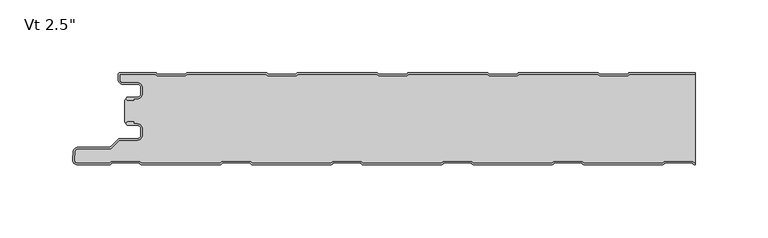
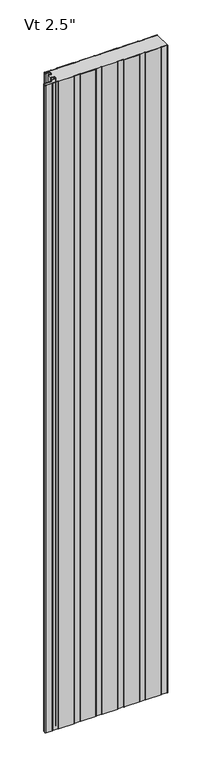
"""IFC4 building model written with IfcOpenShell, lengths in millimetres: plate geometry."""

from ifc_helpers import new_model, si_unit, point, frame, frame_2d, origin, origin_with_axes, place, context, project, spatial, polyline, circle_curve, trimmed, segment, composite_curve, outline, extrude, source, transform, mapped, element, save
from ifc_brep_helpers import plane_surface, cylinder_surface, revolved_surface, advanced_brep


def plate_cb23bb6f(model_context):
    return source(origin(), model_context, "Body", "SolidModel", [
        advanced_brep(
        [(-194.568691, -17.0015405, 2400.0), (-195.5686883, -18.0015437, 2400.0), (-194.568691, -19.0015351, 2400.0), (-190.5684874, -19.0015351, 2400.0), (-190.5684874, -18.0015405, 2400.0), (-187.8762776, -18.0015405, 2400.0), (-184.5762819, -14.7015448, 2400.0), (-184.5762819, -10.3015536, 2400.0), (-187.8762774, -7.0015581, 2400.0), (-198.2962563, -7.0015581, 2400.0), (-200.0662505, -5.2315639, 2400.0), (-200.0662505, -1.0000163, 2400.0), (-175.5659739, -1.0000162, 2400.0), (-174.1803313, -2.2002553, 2400.0), (-154.805165, -2.2002553, 2400.0), (-153.419532, -1.0000245, 2400.0), (-99.3661166, -1.0000245, 2400.0), (-97.9804837, -2.2002552, 2400.0), (-78.6053174, -2.2002551, 2400.0), (-77.2196844, -1.0000244, 2400.0), (-23.166269, -1.0000243, 2400.0), (-21.7806361, -2.200255, 2400.0), (-2.4054698, -2.200255, 2400.0), (-1.0198368, -1.0000243, 2400.0), (53.0335786, -1.0000242, 2400.0), (54.4192115, -2.2002549, 2400.0), (73.7943778, -2.2002548, 2400.0), (75.1800108, -1.0000241, 2400.0), (129.2334262, -1.000024, 2400.0), (130.6190591, -2.2002547, 2400.0), (149.9942254, -2.2002547, 2400.0), (151.3798584, -1.000024, 2400.0), (196.5999998, -1.0000239, 2400.0), (196.5999998, -2.39e-05, 2400.0), (151.5290095, -2.4e-05, 2400.0), (150.6123926, -0.3418125, 2400.0), (149.621345, -1.2002547, 2400.0), (130.9919395, -1.2002547, 2400.0), (130.0008919, -0.3418125, 2400.0), (129.084275, -2.4e-05, 2400.0), (75.3291619, -2.41e-05, 2400.0), (74.412545, -0.3418126, 2400.0), (73.4214974, -1.2002548, 2400.0), (54.7920919, -1.2002549, 2400.0), (53.8010443, -0.3418127, 2400.0), (52.8844274, -2.42e-05, 2400.0), (-0.8706857, -2.43e-05, 2400.0), (-1.7873026, -0.3418128, 2400.0), (-2.7783502, -1.200255, 2400.0), (-21.4077557, -1.200255, 2400.0), (-22.3988033, -0.3418128, 2400.0), (-23.3154202, -2.43e-05, 2400.0), (-77.0705333, -2.44e-05, 2400.0), (-77.9871502, -0.3418129, 2400.0), (-78.9781978, -1.2002551, 2400.0), (-97.6076033, -1.2002552, 2400.0), (-98.5986509, -0.341813, 2400.0), (-99.5152678, -2.44e-05, 2400.0), (-153.2703809, -2.45e-05, 2400.0), (-154.1869978, -0.3418131, 2400.0), (-155.1780454, -1.2002553, 2400.0), (-173.8074509, -1.2002553, 2400.0), (-174.7984985, -0.3418131, 2400.0), (-175.7152068, -2.46e-05, 2400.0), (-199.6662544, -1.63e-05, 2400.0), (-201.0662505, -1.4000124, 2400.0), (-201.0662505, -5.2315639, 2400.0), (-198.2962563, -8.0015581, 2400.0), (-187.8762774, -8.0015581, 2400.0), (-185.5762819, -10.3015536, 2400.0), (-185.5762819, -14.7015448, 2400.0), (-187.8762776, -17.0015405, 2400.0), (-194.568691, -17.0015405, 0.0), (-187.8762776, -17.0015405, 0.0), (-185.5762819, -14.7015448, 0.0), (-185.5762819, -10.3015536, 0.0), (-187.8762774, -8.0015581, 0.0), (-198.2962563, -8.0015581, 0.0), (-201.0662505, -5.2315639, 0.0), (-201.0662505, -1.4000124, 0.0), (-199.6662544, -1.63e-05, 0.0), (-175.7151154, -1.62e-05, 0.0), (-174.7984985, -0.3418131, 0.0), (-173.8074509, -1.2002553, 0.0), (-155.1780454, -1.2002553, 0.0), (-154.1869978, -0.3418131, 0.0), (-153.2703809, -2.45e-05, 0.0), (-99.5152678, -2.45e-05, 0.0), (-98.5986509, -0.341813, 0.0), (-97.6076033, -1.2002552, 0.0), (-78.9781978, -1.2002551, 0.0), (-77.9871502, -0.3418129, 0.0), (-77.0705333, -2.44e-05, 0.0), (-23.3154202, -2.43e-05, 0.0), (-22.3988033, -0.3418128, 0.0), (-21.4077557, -1.200255, 0.0), (-2.7783502, -1.200255, 0.0), (-1.7873026, -0.3418128, 0.0), (-0.8706857, -2.43e-05, 0.0), (52.8844274, -2.42e-05, 0.0), (53.8010443, -0.3418127, 0.0), (54.7920919, -1.2002549, 0.0), (73.4214974, -1.2002548, 0.0), (74.412545, -0.3418126, 0.0), (75.3291619, -2.41e-05, 0.0), (129.084275, -2.4e-05, 0.0), (130.0008919, -0.3418125, 0.0), (130.9919395, -1.2002547, 0.0), (149.621345, -1.2002547, 0.0), (150.6123926, -0.3418125, 0.0), (151.5290095, -2.4e-05, 0.0), (196.5999998, -2.39e-05, 0.0), (196.5999998, -1.0000239, 0.0), (151.3798584, -1.000024, 0.0), (149.9942254, -2.2002547, 0.0), (130.6190591, -2.2002547, 0.0), (129.2334262, -1.000024, 0.0), (75.1800108, -1.0000241, 0.0), (73.7943778, -2.2002548, 0.0), (54.4192115, -2.2002549, 0.0), (53.0335786, -1.0000242, 0.0), (-1.0198368, -1.0000243, 0.0), (-2.4054698, -2.200255, 0.0), (-21.7806361, -2.200255, 0.0), (-23.166269, -1.0000243, 0.0), (-77.2196844, -1.0000244, 0.0), (-78.6053174, -2.2002551, 0.0), (-97.9804837, -2.2002552, 0.0), (-99.3661166, -1.0000245, 0.0), (-153.419532, -1.0000245, 0.0), (-154.805165, -2.2002553, 0.0), (-174.1803313, -2.2002553, 0.0), (-175.5659739, -1.0000162, 0.0), (-200.0662505, -1.0000163, 0.0), (-200.0662505, -5.2315639, 0.0), (-198.2962563, -7.0015581, 0.0), (-187.8762774, -7.0015581, 0.0), (-184.5762819, -10.3015536, 0.0), (-184.5762819, -14.7015448, 0.0), (-187.8762776, -18.0015405, 0.0), (-190.5684874, -18.0015405, 0.0), (-190.5684874, -19.0015351, 0.0), (-194.568691, -19.0015351, 0.0), (-195.5686882, -18.0015438, 0.0)],
        [
            (0, 1, circle_curve(frame((-194.568691, -18.0015378, 2400.0), z_axis=(0.0, 0.0, 1.0), x_axis=(1.0, 1.7886562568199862e-09, 0.0)), 0.9999973)),
            (1, 2, circle_curve(frame((-194.568691, -18.0015379, 2400.0), z_axis=(0.0, 0.0, 1.0), x_axis=(1.0, 1.7886562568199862e-09, 0.0)), 0.9999972)),
            (2, 3),
            (3, 4),
            (4, 5),
            (5, 6, circle_curve(frame((-187.8762776, -14.7015448, 2400.0), z_axis=(0.0, 0.0, 1.0), x_axis=(1.0, 1.7886562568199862e-09, 0.0)), 3.2999957)),
            (6, 7),
            (7, 8, circle_curve(frame((-187.8762774, -10.3015536, 2400.0), z_axis=(0.0, 0.0, 1.0), x_axis=(1.0, 1.7886562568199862e-09, 0.0)), 3.2999955)),
            (8, 9),
            (9, 10, circle_curve(frame((-198.2962563, -5.2315639, 2400.0), z_axis=(0.0, 0.0, -1.0), x_axis=(1.0, 1.7886562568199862e-09, 0.0)), 1.7699942)),
            (10, 11),
            (11, 12),
            (12, 13),
            (13, 14),
            (14, 15),
            (15, 16),
            (16, 17),
            (17, 18),
            (18, 19),
            (19, 20),
            (20, 21),
            (21, 22),
            (22, 23),
            (23, 24),
            (24, 25),
            (25, 26),
            (26, 27),
            (27, 28),
            (28, 29),
            (29, 30),
            (30, 31),
            (31, 32),
            (32, 33),
            (33, 34),
            (34, 35, circle_curve(frame((151.5290095, -1.4000212, 2400.0), z_axis=(0.0, 0.0, 1.0), x_axis=(1.0, 1.7886562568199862e-09, 0.0)), 1.3999972)),
            (35, 36),
            (36, 37),
            (37, 38),
            (38, 39, circle_curve(frame((129.084275, -1.4000212, 2400.0), z_axis=(0.0, 0.0, 1.0), x_axis=(1.0, 1.7886562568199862e-09, 0.0)), 1.3999972)),
            (39, 40),
            (40, 41, circle_curve(frame((75.3291619, -1.4000213, 2400.0), z_axis=(0.0, 0.0, 1.0), x_axis=(1.0, 1.7886562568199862e-09, 0.0)), 1.3999972)),
            (41, 42),
            (42, 43),
            (43, 44),
            (44, 45, circle_curve(frame((52.8844274, -1.4000214, 2400.0), z_axis=(0.0, 0.0, 1.0), x_axis=(1.0, 1.7886562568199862e-09, 0.0)), 1.3999972)),
            (45, 46),
            (46, 47, circle_curve(frame((-0.8706857, -1.4000215, 2400.0), z_axis=(0.0, 0.0, 1.0), x_axis=(1.0, 1.7886562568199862e-09, 0.0)), 1.3999972)),
            (47, 48),
            (48, 49),
            (49, 50),
            (50, 51, circle_curve(frame((-23.3154202, -1.4000215, 2400.0), z_axis=(0.0, 0.0, 1.0), x_axis=(1.0, 1.7886562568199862e-09, 0.0)), 1.3999972)),
            (51, 52),
            (52, 53, circle_curve(frame((-77.0705333, -1.4000216, 2400.0), z_axis=(0.0, 0.0, 1.0), x_axis=(1.0, 1.7886562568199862e-09, 0.0)), 1.3999972)),
            (53, 54),
            (54, 55),
            (55, 56),
            (56, 57, circle_curve(frame((-99.5152678, -1.4000216, 2400.0), z_axis=(0.0, 0.0, 1.0), x_axis=(1.0, 1.7886562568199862e-09, 0.0)), 1.3999972)),
            (57, 58),
            (58, 59, circle_curve(frame((-153.2703809, -1.4000217, 2400.0), z_axis=(0.0, 0.0, 1.0), x_axis=(1.0, 1.7886562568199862e-09, 0.0)), 1.3999972)),
            (59, 60),
            (60, 61),
            (61, 62),
            (62, 63, circle_curve(frame((-175.7151154, -1.4000218, 2400.0), z_axis=(0.0, 0.0, 1.0), x_axis=(1.0, 1.7886562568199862e-09, 0.0)), 1.3999972)),
            (63, 64),
            (64, 65, circle_curve(frame((-199.6662544, -1.4000124, 2400.0), z_axis=(0.0, 0.0, 1.0), x_axis=(1.0, 1.7886562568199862e-09, 0.0)), 1.3999962)),
            (65, 66),
            (66, 67, circle_curve(frame((-198.2962563, -5.2315639, 2400.0), z_axis=(0.0, 0.0, 1.0), x_axis=(1.0, 1.7886562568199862e-09, 0.0)), 2.7699942)),
            (67, 68),
            (68, 69, circle_curve(frame((-187.8762774, -10.3015536, 2400.0), z_axis=(0.0, 0.0, -1.0), x_axis=(1.0, 1.7886562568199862e-09, 0.0)), 2.2999955)),
            (69, 70),
            (70, 71, circle_curve(frame((-187.8762776, -14.7015448, 2400.0), z_axis=(0.0, 0.0, -1.0), x_axis=(1.0, 1.7886562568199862e-09, 0.0)), 2.2999957)),
            (71, 0),
            (72, 73),
            (73, 74, circle_curve(frame((-187.8762776, -14.7015448, 0.0), z_axis=(0.0, 0.0, 1.0), x_axis=(1.0, 1.7886562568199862e-09, 0.0)), 2.2999957)),
            (74, 75),
            (75, 76, circle_curve(frame((-187.8762774, -10.3015536, 0.0), z_axis=(0.0, 0.0, 1.0), x_axis=(1.0, 1.7886562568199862e-09, 0.0)), 2.2999955)),
            (76, 77),
            (77, 78, circle_curve(frame((-198.2962563, -5.2315639, 0.0), z_axis=(0.0, 0.0, -1.0), x_axis=(1.0, 1.7886562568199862e-09, 0.0)), 2.7699942)),
            (78, 79),
            (79, 80, circle_curve(frame((-199.6662544, -1.4000124, 0.0), z_axis=(0.0, 0.0, -1.0), x_axis=(1.0, 1.7886562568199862e-09, 0.0)), 1.3999962)),
            (80, 81),
            (81, 82, circle_curve(frame((-175.7151154, -1.4000218, 0.0), z_axis=(0.0, 0.0, -1.0), x_axis=(1.0, 1.7886562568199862e-09, 0.0)), 1.3999972)),
            (82, 83),
            (83, 84),
            (84, 85),
            (85, 86, circle_curve(frame((-153.2703809, -1.4000217, 0.0), z_axis=(0.0, 0.0, -1.0), x_axis=(1.0, 1.7886562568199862e-09, 0.0)), 1.3999972)),
            (86, 87),
            (87, 88, circle_curve(frame((-99.5152678, -1.4000216, 0.0), z_axis=(0.0, 0.0, -1.0), x_axis=(1.0, 1.7886562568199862e-09, 0.0)), 1.3999972)),
            (88, 89),
            (89, 90),
            (90, 91),
            (91, 92, circle_curve(frame((-77.0705333, -1.4000216, 0.0), z_axis=(0.0, 0.0, -1.0), x_axis=(1.0, 1.7886562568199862e-09, 0.0)), 1.3999972)),
            (92, 93),
            (93, 94, circle_curve(frame((-23.3154202, -1.4000215, 0.0), z_axis=(0.0, 0.0, -1.0), x_axis=(1.0, 1.7886562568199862e-09, 0.0)), 1.3999972)),
            (94, 95),
            (95, 96),
            (96, 97),
            (97, 98, circle_curve(frame((-0.8706857, -1.4000215, 0.0), z_axis=(0.0, 0.0, -1.0), x_axis=(1.0, 1.7886562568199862e-09, 0.0)), 1.3999972)),
            (98, 99),
            (99, 100, circle_curve(frame((52.8844274, -1.4000214, 0.0), z_axis=(0.0, 0.0, -1.0), x_axis=(1.0, 1.7886562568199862e-09, 0.0)), 1.3999972)),
            (100, 101),
            (101, 102),
            (102, 103),
            (103, 104, circle_curve(frame((75.3291619, -1.4000213, 0.0), z_axis=(0.0, 0.0, -1.0), x_axis=(1.0, 1.7886562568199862e-09, 0.0)), 1.3999972)),
            (104, 105),
            (105, 106, circle_curve(frame((129.084275, -1.4000212, 0.0), z_axis=(0.0, 0.0, -1.0), x_axis=(1.0, 1.7886562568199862e-09, 0.0)), 1.3999972)),
            (106, 107),
            (107, 108),
            (108, 109),
            (109, 110, circle_curve(frame((151.5290095, -1.4000212, 0.0), z_axis=(0.0, 0.0, -1.0), x_axis=(1.0, 1.7886562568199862e-09, 0.0)), 1.3999972)),
            (110, 111),
            (111, 112),
            (112, 113),
            (113, 114),
            (114, 115),
            (115, 116),
            (116, 117),
            (117, 118),
            (118, 119),
            (119, 120),
            (120, 121),
            (121, 122),
            (122, 123),
            (123, 124),
            (124, 125),
            (125, 126),
            (126, 127),
            (127, 128),
            (128, 129),
            (129, 130),
            (130, 131),
            (131, 132),
            (132, 133),
            (133, 134),
            (134, 135, circle_curve(frame((-198.2962563, -5.2315639, 0.0), z_axis=(0.0, 0.0, 1.0), x_axis=(1.0, 1.7886562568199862e-09, 0.0)), 1.7699942)),
            (135, 136),
            (136, 137, circle_curve(frame((-187.8762774, -10.3015536, 0.0), z_axis=(0.0, 0.0, -1.0), x_axis=(1.0, 1.7886562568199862e-09, 0.0)), 3.2999955)),
            (137, 138),
            (138, 139, circle_curve(frame((-187.8762776, -14.7015448, 0.0), z_axis=(0.0, 0.0, -1.0), x_axis=(1.0, 1.7886562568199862e-09, 0.0)), 3.2999957)),
            (139, 140),
            (140, 141),
            (141, 142),
            (142, 143, circle_curve(frame((-194.568691, -18.0015379, 0.0), z_axis=(0.0, 0.0, -1.0), x_axis=(1.0, 1.7886562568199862e-09, 0.0)), 0.9999972)),
            (143, 72, circle_curve(frame((-194.568691, -18.0015378, 0.0), z_axis=(0.0, 0.0, -1.0), x_axis=(1.0, 1.7886562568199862e-09, 0.0)), 0.9999973)),
            (32, 112),
            (111, 33),
            (71, 73),
            (72, 0),
            (70, 74),
            (69, 75),
            (68, 76),
            (67, 77),
            (66, 78),
            (65, 79),
            (64, 80),
            (63, 81),
            (62, 82),
            (61, 83),
            (60, 84),
            (59, 85),
            (58, 86),
            (57, 87),
            (56, 88),
            (55, 89),
            (54, 90),
            (53, 91),
            (52, 92),
            (51, 93),
            (50, 94),
            (49, 95),
            (48, 96),
            (47, 97),
            (46, 98),
            (45, 99),
            (44, 100),
            (43, 101),
            (42, 102),
            (41, 103),
            (40, 104),
            (39, 105),
            (38, 106),
            (37, 107),
            (36, 108),
            (35, 109),
            (34, 110),
            (31, 113),
            (30, 114),
            (29, 115),
            (28, 116),
            (27, 117),
            (26, 118),
            (25, 119),
            (24, 120),
            (23, 121),
            (22, 122),
            (21, 123),
            (20, 124),
            (19, 125),
            (18, 126),
            (17, 127),
            (16, 128),
            (15, 129),
            (14, 130),
            (13, 131),
            (12, 132),
            (11, 133),
            (10, 134),
            (9, 135),
            (8, 136),
            (7, 137),
            (6, 138),
            (5, 139),
            (4, 140),
            (3, 141),
            (2, 142),
            (1, 143),
        ],
        [
            plane_surface(frame((336.8000001, -2.37e-05, 2400.0), z_axis=(0.0, 0.0, 1.0), x_axis=(-1.7886562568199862e-09, 1.0, 0.0))),
            plane_surface(frame((336.8000001, -2.37e-05, 0.0), z_axis=(0.0, 0.0, -1.0), x_axis=(-1.7886562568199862e-09, 1.0, 0.0))),
            plane_surface(frame((196.5999999, -73.5000239, 2400.0), z_axis=(1.0, 1.7886562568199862e-09, 0.0), x_axis=(0.0, 0.0, -1.0))),
            plane_surface(frame((-194.568691, -17.0015405, 2400.0), z_axis=(-1.7886562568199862e-09, 1.0, 0.0), x_axis=(0.0, 0.0, -1.0))),
            revolved_surface(polyline([(-185.5762819, -14.701544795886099, 0.0), (-185.5762819, -14.701544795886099, 2400.0)]), (-187.8762776, -14.7015448, 2400.0), (0.0, 0.0, -1.0)),
            plane_surface(frame((-185.5762819, -14.7015448, 2400.0), z_axis=(-1.0, -1.7886562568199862e-09, 0.0), x_axis=(0.0, 0.0, -1.0))),
            revolved_surface(polyline([(-185.5762819, -10.301553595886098, 0.0), (-185.5762819, -10.301553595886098, 2400.0)]), (-187.8762774, -10.3015536, 2400.0), (0.0, 0.0, -1.0)),
            plane_surface(frame((-187.8762774, -8.0015581, 2400.0), z_axis=(1.7886562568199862e-09, -1.0, 0.0), x_axis=(0.0, 0.0, -1.0))),
            cylinder_surface(frame((-198.2962563, -5.2315639, 2400.0), z_axis=(0.0, 0.0, 1.0), x_axis=(1.0, 1.7886562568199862e-09, 0.0)), 2.7699942),
            plane_surface(frame((-201.0662505, -5.2315639, 2400.0), z_axis=(-1.0, -1.7886562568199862e-09, 0.0), x_axis=(0.0, 0.0, -1.0))),
            cylinder_surface(frame((-199.6662544, -1.4000124, 2400.0), z_axis=(0.0, 0.0, 1.0), x_axis=(1.0, 1.7886562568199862e-09, 0.0)), 1.3999962),
            plane_surface(frame((-199.6662544, -1.63e-05, 2400.0), z_axis=(-1.7886562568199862e-09, 1.0, 0.0), x_axis=(0.0, 0.0, -1.0))),
            cylinder_surface(frame((-175.7151154, -1.4000218, 2400.0), z_axis=(0.0, 0.0, 1.0), x_axis=(1.0, 1.7886562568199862e-09, 0.0)), 1.3999972),
            plane_surface(frame((-174.7984985, -0.3418131, 2400.0), z_axis=(0.6547276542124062, 0.7558648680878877, 0.0), x_axis=(0.0, 0.0, -1.0))),
            plane_surface(frame((-164.4927481, -1.2002553, 2400.0), z_axis=(-1.7886562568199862e-09, 1.0, 0.0), x_axis=(0.0, 0.0, -1.0))),
            plane_surface(frame((-155.1780454, -1.2002553, 2400.0), z_axis=(-0.654727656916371, 0.7558648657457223, 0.0), x_axis=(0.0, 0.0, -1.0))),
            cylinder_surface(frame((-153.2703809, -1.4000217, 2400.0), z_axis=(0.0, 0.0, 1.0), x_axis=(1.0, 1.7886562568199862e-09, 0.0)), 1.3999972),
            plane_surface(frame((-153.2703809, -2.45e-05, 2400.0), z_axis=(-1.7886512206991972e-09, 1.0, 0.0), x_axis=(0.0, 0.0, -1.0))),
            cylinder_surface(frame((-99.5152678, -1.4000216, 2400.0), z_axis=(0.0, 0.0, 1.0), x_axis=(1.0, 1.7886562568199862e-09, 0.0)), 1.3999972),
            plane_surface(frame((-98.5986509, -0.341813, 2400.0), z_axis=(0.6547276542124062, 0.7558648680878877, 0.0), x_axis=(0.0, 0.0, -1.0))),
            plane_surface(frame((-88.2929005, -1.2002551, 2400.0), z_axis=(-1.7886562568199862e-09, 1.0, 0.0), x_axis=(0.0, 0.0, -1.0))),
            plane_surface(frame((-78.9781978, -1.2002551, 2400.0), z_axis=(-0.654727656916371, 0.7558648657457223, 0.0), x_axis=(0.0, 0.0, -1.0))),
            cylinder_surface(frame((-77.0705333, -1.4000216, 2400.0), z_axis=(0.0, 0.0, 1.0), x_axis=(1.0, 1.7886562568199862e-09, 0.0)), 1.3999972),
            plane_surface(frame((-77.0705333, -2.44e-05, 2400.0), z_axis=(-1.7886512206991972e-09, 1.0, 0.0), x_axis=(0.0, 0.0, -1.0))),
            cylinder_surface(frame((-23.3154202, -1.4000215, 2400.0), z_axis=(0.0, 0.0, 1.0), x_axis=(1.0, 1.7886562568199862e-09, 0.0)), 1.3999972),
            plane_surface(frame((-22.3988033, -0.3418128, 2400.0), z_axis=(0.6547276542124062, 0.7558648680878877, 0.0), x_axis=(0.0, 0.0, -1.0))),
            plane_surface(frame((-12.0930529, -1.200255, 2400.0), z_axis=(-1.7886562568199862e-09, 1.0, 0.0), x_axis=(0.0, 0.0, -1.0))),
            plane_surface(frame((-2.7783502, -1.200255, 2400.0), z_axis=(-0.654727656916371, 0.7558648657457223, 0.0), x_axis=(0.0, 0.0, -1.0))),
            cylinder_surface(frame((-0.8706857, -1.4000215, 2400.0), z_axis=(0.0, 0.0, 1.0), x_axis=(1.0, 1.7886562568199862e-09, 0.0)), 1.3999972),
            plane_surface(frame((-0.8706857, -2.43e-05, 2400.0), z_axis=(-1.7886512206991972e-09, 1.0, 0.0), x_axis=(0.0, 0.0, -1.0))),
            cylinder_surface(frame((52.8844274, -1.4000214, 2400.0), z_axis=(0.0, 0.0, 1.0), x_axis=(1.0, 1.7886562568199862e-09, 0.0)), 1.3999972),
            plane_surface(frame((53.8010443, -0.3418127, 2400.0), z_axis=(0.6547276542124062, 0.7558648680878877, 0.0), x_axis=(0.0, 0.0, -1.0))),
            plane_surface(frame((64.1067947, -1.2002549, 2400.0), z_axis=(-1.7886562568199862e-09, 1.0, 0.0), x_axis=(0.0, 0.0, -1.0))),
            plane_surface(frame((73.4214974, -1.2002548, 2400.0), z_axis=(-0.654727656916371, 0.7558648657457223, 0.0), x_axis=(0.0, 0.0, -1.0))),
            cylinder_surface(frame((75.3291619, -1.4000213, 2400.0), z_axis=(0.0, 0.0, 1.0), x_axis=(1.0, 1.7886562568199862e-09, 0.0)), 1.3999972),
            plane_surface(frame((75.3291619, -2.41e-05, 2400.0), z_axis=(-1.7886512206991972e-09, 1.0, 0.0), x_axis=(0.0, 0.0, -1.0))),
            cylinder_surface(frame((129.084275, -1.4000212, 2400.0), z_axis=(0.0, 0.0, 1.0), x_axis=(1.0, 1.7886562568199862e-09, 0.0)), 1.3999972),
            plane_surface(frame((130.0008919, -0.3418125, 2400.0), z_axis=(0.6547276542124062, 0.7558648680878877, 0.0), x_axis=(0.0, 0.0, -1.0))),
            plane_surface(frame((140.3066423, -1.2002547, 2400.0), z_axis=(-1.7886562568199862e-09, 1.0, 0.0), x_axis=(0.0, 0.0, -1.0))),
            plane_surface(frame((149.621345, -1.2002547, 2400.0), z_axis=(-0.654727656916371, 0.7558648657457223, 0.0), x_axis=(0.0, 0.0, -1.0))),
            cylinder_surface(frame((151.5290095, -1.4000212, 2400.0), z_axis=(0.0, 0.0, 1.0), x_axis=(1.0, 1.7886562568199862e-09, 0.0)), 1.3999972),
            plane_surface(frame((151.5290095, -2.4e-05, 2400.0), z_axis=(-1.7886512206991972e-09, 1.0, 0.0), x_axis=(0.0, 0.0, -1.0))),
            plane_surface(frame((205.4332738, -1.0000239, 2400.0), z_axis=(1.7886512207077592e-09, -1.0, 0.0), x_axis=(0.0, 0.0, -1.0))),
            plane_surface(frame((151.3798584, -1.000024, 2400.0), z_axis=(0.654727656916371, -0.7558648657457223, 0.0), x_axis=(0.0, 0.0, -1.0))),
            plane_surface(frame((149.9942254, -2.2002547, 2400.0), z_axis=(1.7886562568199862e-09, -1.0, 0.0), x_axis=(0.0, 0.0, -1.0))),
            plane_surface(frame((130.6190591, -2.2002547, 2400.0), z_axis=(-0.6547276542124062, -0.7558648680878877, 0.0), x_axis=(0.0, 0.0, -1.0))),
            plane_surface(frame((129.2334262, -1.000024, 2400.0), z_axis=(1.7886512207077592e-09, -1.0, 0.0), x_axis=(0.0, 0.0, -1.0))),
            plane_surface(frame((75.1800108, -1.0000241, 2400.0), z_axis=(0.654727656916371, -0.7558648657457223, 0.0), x_axis=(0.0, 0.0, -1.0))),
            plane_surface(frame((73.7943778, -2.2002548, 2400.0), z_axis=(1.7886562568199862e-09, -1.0, 0.0), x_axis=(0.0, 0.0, -1.0))),
            plane_surface(frame((54.4192115, -2.2002549, 2400.0), z_axis=(-0.6547276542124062, -0.7558648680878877, 0.0), x_axis=(0.0, 0.0, -1.0))),
            plane_surface(frame((53.0335786, -1.0000242, 2400.0), z_axis=(1.7886512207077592e-09, -1.0, 0.0), x_axis=(0.0, 0.0, -1.0))),
            plane_surface(frame((-1.0198368, -1.0000243, 2400.0), z_axis=(0.654727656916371, -0.7558648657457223, 0.0), x_axis=(0.0, 0.0, -1.0))),
            plane_surface(frame((-2.4054698, -2.200255, 2400.0), z_axis=(1.7886562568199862e-09, -1.0, 0.0), x_axis=(0.0, 0.0, -1.0))),
            plane_surface(frame((-21.7806361, -2.200255, 2400.0), z_axis=(-0.6547276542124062, -0.7558648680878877, 0.0), x_axis=(0.0, 0.0, -1.0))),
            plane_surface(frame((-23.166269, -1.0000243, 2400.0), z_axis=(1.7886512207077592e-09, -1.0, 0.0), x_axis=(0.0, 0.0, -1.0))),
            plane_surface(frame((-77.2196844, -1.0000244, 2400.0), z_axis=(0.654727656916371, -0.7558648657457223, 0.0), x_axis=(0.0, 0.0, -1.0))),
            plane_surface(frame((-78.6053174, -2.2002551, 2400.0), z_axis=(1.7886562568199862e-09, -1.0, 0.0), x_axis=(0.0, 0.0, -1.0))),
            plane_surface(frame((-97.9804837, -2.2002552, 2400.0), z_axis=(-0.6547276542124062, -0.7558648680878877, 0.0), x_axis=(0.0, 0.0, -1.0))),
            plane_surface(frame((-99.3661166, -1.0000245, 2400.0), z_axis=(1.7886512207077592e-09, -1.0, 0.0), x_axis=(0.0, 0.0, -1.0))),
            plane_surface(frame((-153.419532, -1.0000245, 2400.0), z_axis=(0.654727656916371, -0.7558648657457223, 0.0), x_axis=(0.0, 0.0, -1.0))),
            plane_surface(frame((-154.805165, -2.2002553, 2400.0), z_axis=(1.7886562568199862e-09, -1.0, 0.0), x_axis=(0.0, 0.0, -1.0))),
            plane_surface(frame((-174.1803313, -2.2002553, 2400.0), z_axis=(-0.6547276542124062, -0.7558648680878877, 0.0), x_axis=(0.0, 0.0, -1.0))),
            plane_surface(frame((-175.5659739, -1.0000162, 2400.0), z_axis=(1.7886562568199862e-09, -1.0, 0.0), x_axis=(0.0, 0.0, -1.0))),
            plane_surface(frame((-200.0662505, -1.0000163, 2400.0), z_axis=(1.0, 1.7886562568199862e-09, 0.0), x_axis=(0.0, 0.0, -1.0))),
            revolved_surface(polyline([(-196.5262621, -5.231563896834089, 0.0), (-196.5262621, -5.231563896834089, 2400.0)]), (-198.2962563, -5.2315639, 2400.0), (0.0, 0.0, -1.0)),
            plane_surface(frame((-198.2962563, -7.0015581, 2400.0), z_axis=(-1.7886562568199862e-09, 1.0, 0.0), x_axis=(0.0, 0.0, -1.0))),
            cylinder_surface(frame((-187.8762774, -10.3015536, 2400.0), z_axis=(0.0, 0.0, 1.0), x_axis=(1.0, 1.7886562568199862e-09, 0.0)), 3.2999955),
            plane_surface(frame((-184.5762819, -10.3015536, 2400.0), z_axis=(1.0, 1.7886562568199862e-09, 0.0), x_axis=(0.0, 0.0, -1.0))),
            cylinder_surface(frame((-187.8762776, -14.7015448, 2400.0), z_axis=(0.0, 0.0, 1.0), x_axis=(1.0, 1.7886562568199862e-09, 0.0)), 3.2999957),
            plane_surface(frame((-187.8762776, -18.0015405, 2400.0), z_axis=(1.7886562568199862e-09, -1.0, 0.0), x_axis=(0.0, 0.0, -1.0))),
            plane_surface(frame((-190.5684874, -18.0015405, 2400.0), z_axis=(1.0, 1.7886562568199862e-09, 0.0), x_axis=(0.0, 0.0, -1.0))),
            plane_surface(frame((-190.5684874, -19.0015351, 2400.0), z_axis=(1.7886562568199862e-09, -1.0, 0.0), x_axis=(0.0, 0.0, -1.0))),
            cylinder_surface(frame((-194.568691, -18.0015379, 2400.0), z_axis=(0.0, 0.0, 1.0), x_axis=(1.0, 1.7886562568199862e-09, 0.0)), 0.9999972),
            cylinder_surface(frame((-194.568691, -18.0015378, 2400.0), z_axis=(0.0, 0.0, 1.0), x_axis=(1.0, 1.7886562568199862e-09, 0.0)), 0.9999973),
        ],
        [
            (0, [[1, 2, 3, 4, 5, 6, 7, 8, 9, 10, 11, 12, 13, 14, 15, 16, 17, 18, 19, 20, 21, 22, 23, 24, 25, 26, 27, 28, 29, 30, 31, 32, 33, 34, 35, 36, 37, 38, 39, 40, 41, 42, 43, 44, 45, 46, 47, 48, 49, 50, 51, 52, 53, 54, 55, 56, 57, 58, 59, 60, 61, 62, 63, 64, 65, 66, 67, 68, 69, 70, 71, 72]]),
            (1, [[73, 74, 75, 76, 77, 78, 79, 80, 81, 82, 83, 84, 85, 86, 87, 88, 89, 90, 91, 92, 93, 94, 95, 96, 97, 98, 99, 100, 101, 102, 103, 104, 105, 106, 107, 108, 109, 110, 111, 112, 113, 114, 115, 116, 117, 118, 119, 120, 121, 122, 123, 124, 125, 126, 127, 128, 129, 130, 131, 132, 133, 134, 135, 136, 137, 138, 139, 140, 141, 142, 143, 144]]),
            (2, [[145, -112, 146, -33]]),
            (3, [[147, -73, 148, -72]]),
            (4, [[149, -74, -147, -71]]),
            (5, [[150, -75, -149, -70]]),
            (6, [[151, -76, -150, -69]]),
            (7, [[152, -77, -151, -68]]),
            (8, [[153, -78, -152, -67]]),
            (9, [[154, -79, -153, -66]]),
            (10, [[155, -80, -154, -65]]),
            (11, [[156, -81, -155, -64]]),
            (12, [[157, -82, -156, -63]]),
            (13, [[158, -83, -157, -62]]),
            (14, [[159, -84, -158, -61]]),
            (15, [[160, -85, -159, -60]]),
            (16, [[161, -86, -160, -59]]),
            (17, [[162, -87, -161, -58]]),
            (18, [[163, -88, -162, -57]]),
            (19, [[164, -89, -163, -56]]),
            (20, [[165, -90, -164, -55]]),
            (21, [[166, -91, -165, -54]]),
            (22, [[167, -92, -166, -53]]),
            (23, [[168, -93, -167, -52]]),
            (24, [[169, -94, -168, -51]]),
            (25, [[170, -95, -169, -50]]),
            (26, [[171, -96, -170, -49]]),
            (27, [[172, -97, -171, -48]]),
            (28, [[173, -98, -172, -47]]),
            (29, [[174, -99, -173, -46]]),
            (30, [[175, -100, -174, -45]]),
            (31, [[176, -101, -175, -44]]),
            (32, [[177, -102, -176, -43]]),
            (33, [[178, -103, -177, -42]]),
            (34, [[179, -104, -178, -41]]),
            (35, [[180, -105, -179, -40]]),
            (36, [[181, -106, -180, -39]]),
            (37, [[182, -107, -181, -38]]),
            (38, [[183, -108, -182, -37]]),
            (39, [[184, -109, -183, -36]]),
            (40, [[185, -110, -184, -35]]),
            (41, [[-34, -146, -111, -185]]),
            (42, [[-113, -145, -32, 186]]),
            (43, [[187, -114, -186, -31]]),
            (44, [[188, -115, -187, -30]]),
            (45, [[189, -116, -188, -29]]),
            (46, [[190, -117, -189, -28]]),
            (47, [[191, -118, -190, -27]]),
            (48, [[192, -119, -191, -26]]),
            (49, [[193, -120, -192, -25]]),
            (50, [[194, -121, -193, -24]]),
            (51, [[195, -122, -194, -23]]),
            (52, [[196, -123, -195, -22]]),
            (53, [[197, -124, -196, -21]]),
            (54, [[198, -125, -197, -20]]),
            (55, [[199, -126, -198, -19]]),
            (56, [[200, -127, -199, -18]]),
            (57, [[201, -128, -200, -17]]),
            (58, [[202, -129, -201, -16]]),
            (59, [[203, -130, -202, -15]]),
            (60, [[204, -131, -203, -14]]),
            (61, [[205, -132, -204, -13]]),
            (62, [[206, -133, -205, -12]]),
            (63, [[207, -134, -206, -11]]),
            (64, [[208, -135, -207, -10]]),
            (65, [[209, -136, -208, -9]]),
            (66, [[210, -137, -209, -8]]),
            (67, [[211, -138, -210, -7]]),
            (68, [[212, -139, -211, -6]]),
            (69, [[213, -140, -212, -5]]),
            (70, [[214, -141, -213, -4]]),
            (71, [[215, -142, -214, -3]]),
            (72, [[216, -143, -215, -2]]),
            (73, [[-148, -144, -216, -1]]),
        ],
    ),
        extrude(outline(composite_curve([segment(polyline([(-207.2415932, -63.5006641), (-229.0521174, -63.5006641)]), True, "CONTINUOUS"), segment(trimmed(circle_curve(frame_2d((-229.0521174, -59.9304248)), 3.5702393), [point((-229.0521174, -63.5006641))], [point((-232.6087618, -59.6191544))], False, "CARTESIAN"), True, "CONTINUOUS"), segment(polyline([(-232.6087618, -59.6191544), (-232.1690673, -54.5951078)]), True, "CONTINUOUS"), segment(trimmed(circle_curve(frame_2d((-228.519839, -55.2059089)), 3.6999926), [point((-232.1690673, -54.5951078))], [point((-228.519839, -51.5059163))], False, "CARTESIAN"), True, "CONTINUOUS"), segment(polyline([(-228.519839, -51.5059163), (-207.3773995, -51.5059163)]), True, "CONTINUOUS"), segment(trimmed(circle_curve(frame_2d((-207.3773995, -50.2059189)), 1.2999974), [point((-207.3773995, -51.5059163))], [point((-206.4581625, -51.1251558))], True, "CARTESIAN"), True, "CONTINUOUS"), segment(polyline([(-206.4581625, -51.1251558), (-201.6297451, -46.2967384)]), True, "CONTINUOUS"), segment(trimmed(circle_curve(frame_2d((-199.7205606, -48.2059229)), 2.6999946), [point((-201.6297451, -46.2967384))], [point((-199.7205606, -45.5059283))], False, "CARTESIAN"), True, "CONTINUOUS"), segment(polyline([(-199.7205606, -45.5059283), (-187.9096715, -45.5059282)]), True, "CONTINUOUS"), segment(trimmed(circle_curve(frame_2d((-187.9096715, -43.1559329)), 2.3499953), [point((-187.9096715, -45.5059282))], [point((-185.5596762, -43.1559329))], True, "CARTESIAN"), True, "CONTINUOUS"), segment(polyline([(-185.5596762, -43.1559329), (-185.5596762, -38.7559417)]), True, "CONTINUOUS"), segment(trimmed(circle_curve(frame_2d((-187.9096715, -38.7559417)), 2.3499953), [point((-185.5596762, -38.7559417))], [point((-187.9096715, -36.4059464))], True, "CARTESIAN"), True, "CONTINUOUS"), segment(polyline([(-187.9096715, -36.4059464), (-194.4289777, -36.4059464)]), True, "CONTINUOUS"), segment(trimmed(circle_curve(frame_2d((-194.3686906, -35.2074642)), 1.1999976), [point((-194.4289777, -36.4059464))], [point((-195.5683, -35.1769423))], False, "CARTESIAN"), True, "CONTINUOUS"), segment(trimmed(circle_curve(frame_2d((-194.3686906, -35.2074642)), 1.1999976), [point((-195.5683, -35.1769423))], [point((-194.367176, -34.0074676))], False, "CARTESIAN"), True, "CONTINUOUS"), segment(polyline([(-194.367176, -34.0074676), (-190.6087826, -34.0074675), (-190.6087826, -35.4059464), (-187.9096715, -35.4059464)]), True, "CONTINUOUS"), segment(trimmed(circle_curve(frame_2d((-187.9096715, -38.7559417)), 3.3499953), [point((-187.9096715, -35.4059464))], [point((-184.5596762, -38.7559417))], False, "CARTESIAN"), True, "CONTINUOUS"), segment(polyline([(-184.5596762, -38.7559417), (-184.5596762, -43.1559329)]), True, "CONTINUOUS"), segment(trimmed(circle_curve(frame_2d((-187.9096715, -43.1559329)), 3.3499953), [point((-184.5596762, -43.1559329))], [point((-187.9096715, -46.5059282))], False, "CARTESIAN"), True, "CONTINUOUS"), segment(polyline([(-187.9096715, -46.5059282), (-199.7205606, -46.5059283)]), True, "CONTINUOUS"), segment(trimmed(circle_curve(frame_2d((-199.7205606, -48.2059229)), 1.6999946), [point((-199.7205606, -46.5059283))], [point((-200.9226383, -47.0038452))], True, "CARTESIAN"), True, "CONTINUOUS"), segment(polyline([(-200.9226383, -47.0038452), (-206.4247094, -52.5059163), (-228.519839, -52.5059163)]), True, "CONTINUOUS"), segment(trimmed(circle_curve(frame_2d((-228.519839, -55.2059089)), 2.6999926), [point((-228.519839, -52.5059163))], [point((-231.1765707, -54.7245183))], True, "CARTESIAN"), True, "CONTINUOUS"), segment(polyline([(-231.1765707, -54.7245183), (-231.6125697, -59.7063392)]), True, "CONTINUOUS"), segment(trimmed(circle_curve(frame_2d((-229.0521174, -59.9304248)), 2.5702393), [point((-231.6125697, -59.7063392))], [point((-229.0521174, -62.5006641))], True, "CARTESIAN"), True, "CONTINUOUS"), segment(polyline([(-229.0521174, -62.5006641), (-207.079096, -62.5006641), (-205.8791275, -61.3006955), (-186.1597149, -61.3006955), (-184.9594842, -62.5009262), (-130.8793525, -62.5009261), (-129.6791218, -61.3006954), (-109.9597093, -61.3006954), (-108.7594785, -62.5009261), (-54.6793468, -62.500926), (-53.4791161, -61.3006953), (-33.7597036, -61.3006952), (-32.5594729, -62.5009259), (21.5206589, -62.5009258), (22.7208896, -61.3006951), (42.4403021, -61.3006951), (43.6405328, -62.5009258), (97.7206646, -62.5009257), (98.9208953, -61.300695), (118.6403078, -61.300695), (119.8405385, -62.5009257), (173.9206703, -62.5009256), (175.120901, -61.3006949), (194.8403135, -61.3006948), (196.0405442, -62.5009255), (196.5999999, -62.5009255), (196.5999999, -63.5009255), (196.2099792, -63.5009255)]), True, "CONTINUOUS"), segment(trimmed(circle_curve(frame_2d((196.2023259, -62.1009492)), 1.3999972), [point((196.2099792, -63.5009255))], [point((195.1582751, -63.0336604))], False, "CARTESIAN"), True, "CONTINUOUS"), segment(polyline([(195.1582751, -63.0336604), (194.4253095, -62.3006948), (175.5346403, -62.3006949), (174.8016956, -63.0336395)]), True, "CONTINUOUS"), segment(trimmed(circle_curve(frame_2d((173.7576448, -62.1009284)), 1.3999972), [point((174.8016956, -63.0336395))], [point((173.7576448, -63.5009256))], False, "CARTESIAN"), True, "CONTINUOUS"), segment(polyline([(173.7576448, -63.5009256), (120.0101316, -63.5009257)]), True, "CONTINUOUS"), segment(trimmed(circle_curve(frame_2d((120.0024783, -62.1009494)), 1.3999972), [point((120.0101316, -63.5009257))], [point((118.9584275, -63.0336605))], False, "CARTESIAN"), True, "CONTINUOUS"), segment(polyline([(118.9584275, -63.0336605), (118.2254619, -62.300695), (99.3347927, -62.300695), (98.601848, -63.0336397)]), True, "CONTINUOUS"), segment(trimmed(circle_curve(frame_2d((97.5577972, -62.1009285)), 1.3999972), [point((98.601848, -63.0336397))], [point((97.5577972, -63.5009257))], False, "CARTESIAN"), True, "CONTINUOUS"), segment(polyline([(97.5577972, -63.5009257), (43.810284, -63.5009258)]), True, "CONTINUOUS"), segment(trimmed(circle_curve(frame_2d((43.8026307, -62.1009495)), 1.3999972), [point((43.810284, -63.5009258))], [point((42.7585799, -63.0336607))], False, "CARTESIAN"), True, "CONTINUOUS"), segment(polyline([(42.7585799, -63.0336607), (42.0256143, -62.3006951), (23.1349451, -62.3006951), (22.4020004, -63.0336398)]), True, "CONTINUOUS"), segment(trimmed(circle_curve(frame_2d((21.3579496, -62.1009286)), 1.3999972), [point((22.4020004, -63.0336398))], [point((21.3579496, -63.5009258))], False, "CARTESIAN"), True, "CONTINUOUS"), segment(polyline([(21.3579496, -63.5009258), (-32.3895636, -63.5009259)]), True, "CONTINUOUS"), segment(trimmed(circle_curve(frame_2d((-32.3972169, -62.1009496)), 1.3999972), [point((-32.3895636, -63.5009259))], [point((-33.4412677, -63.0336608))], False, "CARTESIAN"), True, "CONTINUOUS"), segment(polyline([(-33.4412677, -63.0336608), (-34.1742333, -62.3006952), (-53.0649025, -62.3006953), (-53.7978472, -63.0336399)]), True, "CONTINUOUS"), segment(trimmed(circle_curve(frame_2d((-54.841898, -62.1009288)), 1.3999972), [point((-53.7978472, -63.0336399))], [point((-54.841898, -63.500926))], False, "CARTESIAN"), True, "CONTINUOUS"), segment(polyline([(-54.841898, -63.500926), (-108.5894112, -63.5009261)]), True, "CONTINUOUS"), segment(trimmed(circle_curve(frame_2d((-108.5970645, -62.1009498)), 1.3999972), [point((-108.5894112, -63.5009261))], [point((-109.6411153, -63.0336609))], False, "CARTESIAN"), True, "CONTINUOUS"), segment(polyline([(-109.6411153, -63.0336609), (-110.3740809, -62.3006954), (-129.2647501, -62.3006954), (-129.9976948, -63.0336401)]), True, "CONTINUOUS"), segment(trimmed(circle_curve(frame_2d((-131.0417456, -62.1009289)), 1.3999972), [point((-129.9976948, -63.0336401))], [point((-131.0417456, -63.5009261))], False, "CARTESIAN"), True, "CONTINUOUS"), segment(polyline([(-131.0417456, -63.5009261), (-184.7892588, -63.5009262)]), True, "CONTINUOUS"), segment(trimmed(circle_curve(frame_2d((-184.7969121, -62.1009499)), 1.3999972), [point((-184.7892588, -63.5009262))], [point((-185.8409629, -63.0336611))], False, "CARTESIAN"), True, "CONTINUOUS"), segment(polyline([(-185.8409629, -63.0336611), (-186.5739285, -62.3006955), (-205.4649139, -62.3006955), (-206.1976401, -63.0334218)]), True, "CONTINUOUS"), segment(trimmed(circle_curve(frame_2d((-207.2415932, -62.100798)), 1.3998661), [point((-206.1976401, -63.0334218))], [point((-207.2415932, -63.5006641))], False, "CARTESIAN"), True, "CONTINUOUS")], self_intersect=False)), origin_with_axes(), (0.0, 0.0, 1.0), 2400.0),
        extrude(outline(composite_curve([segment(polyline([(-195.5683, -35.1708996), (-196.5999998, -34.1391997), (-196.5999998, -19.0328554), (-195.5686882, -18.0015438)]), True, "CONTINUOUS"), segment(trimmed(circle_curve(frame_2d((-194.568691, -18.0015379)), 0.9999972), [point((-195.5686882, -18.0015438))], [point((-194.568691, -19.0015351))], True, "CARTESIAN"), True, "CONTINUOUS"), segment(polyline([(-194.568691, -19.0015351), (-190.5684873, -19.0015351), (-190.5684873, -18.0015405), (-187.8762775, -18.0015405)]), True, "CONTINUOUS"), segment(trimmed(circle_curve(frame_2d((-187.8762775, -14.7015448)), 3.2999957), [point((-187.8762775, -18.0015405))], [point((-184.5762819, -14.7015448))], True, "CARTESIAN"), True, "CONTINUOUS"), segment(polyline([(-184.5762819, -14.7015448), (-184.5762819, -10.3015536)]), True, "CONTINUOUS"), segment(trimmed(circle_curve(frame_2d((-187.8762777, -10.3015536)), 3.2999959), [point((-184.5762819, -10.3015536))], [point((-187.8762777, -7.0015577))], True, "CARTESIAN"), True, "CONTINUOUS"), segment(polyline([(-187.8762777, -7.0015577), (-198.2962563, -7.0015578)]), True, "CONTINUOUS"), segment(trimmed(circle_curve(frame_2d((-198.2962563, -5.2315636)), 1.7699942), [point((-198.2962563, -7.0015578))], [point((-200.0662505, -5.2315636))], False, "CARTESIAN"), True, "CONTINUOUS"), segment(polyline([(-200.0662505, -5.2315636), (-200.0662505, -1.0000163), (-175.5659739, -1.0000162), (-174.1803312, -2.2002553), (-154.8051649, -2.2002553), (-153.419532, -1.0000245), (-99.3661166, -1.0000245), (-97.9804836, -2.2002552), (-78.6053173, -2.2002551), (-77.2196844, -1.0000244), (-23.166269, -1.0000243), (-21.780636, -2.200255), (-2.4054697, -2.200255), (-1.0198368, -1.0000243), (53.0335786, -1.0000242), (54.4192116, -2.2002549), (73.7943779, -2.2002548), (75.1800108, -1.0000241), (129.2334262, -1.000024), (130.6190592, -2.2002547), (149.9942255, -2.2002547), (151.3798584, -1.000024), (196.5999998, -1.0000239), (196.5999999, -62.4948828), (196.0405442, -62.4948828), (194.8403135, -61.2946521), (175.120901, -61.2946522), (173.9206703, -62.4948829), (119.8405385, -62.494883), (118.6403078, -61.2946523), (98.9208953, -61.2946523), (97.7206646, -62.494883), (43.6405328, -62.4948831), (42.4403021, -61.2946524), (22.7208896, -61.2946524), (21.5206589, -62.4948832), (-32.5594729, -62.4948833), (-33.7597036, -61.2946526), (-53.4791161, -61.2946526), (-54.6793468, -62.4948833), (-108.7594785, -62.4948834), (-109.9597093, -61.2946527), (-129.6791218, -61.2946527), (-130.8793525, -62.4948834), (-184.9594842, -62.4948835), (-186.1597149, -61.2946528), (-205.8791275, -61.2946529), (-207.079096, -62.4946214), (-229.0521174, -62.4946214)]), True, "CONTINUOUS"), segment(trimmed(circle_curve(frame_2d((-229.0521174, -59.9243821)), 2.5702393), [point((-229.0521174, -62.4946214))], [point((-231.6125697, -59.7002965))], False, "CARTESIAN"), True, "CONTINUOUS"), segment(polyline([(-231.6125697, -59.7002965), (-231.1765707, -54.7184756)]), True, "CONTINUOUS"), segment(trimmed(circle_curve(frame_2d((-228.519839, -55.1998662)), 2.6999926), [point((-231.1765707, -54.7184756))], [point((-228.519839, -52.4998736))], False, "CARTESIAN"), True, "CONTINUOUS"), segment(polyline([(-228.519839, -52.4998736), (-206.4247094, -52.4998736), (-200.9226383, -46.9978025)]), True, "CONTINUOUS"), segment(trimmed(circle_curve(frame_2d((-199.7205606, -48.1998802)), 1.6999946), [point((-200.9226383, -46.9978025))], [point((-199.7205606, -46.4998856))], False, "CARTESIAN"), True, "CONTINUOUS"), segment(polyline([(-199.7205606, -46.4998856), (-187.9096715, -46.4998856)]), True, "CONTINUOUS"), segment(trimmed(circle_curve(frame_2d((-187.9096715, -43.1498903)), 3.3499953), [point((-187.9096715, -46.4998856))], [point((-184.5596762, -43.1498903))], True, "CARTESIAN"), True, "CONTINUOUS"), segment(polyline([(-184.5596762, -43.1498903), (-184.5596762, -38.7498991)]), True, "CONTINUOUS"), segment(trimmed(circle_curve(frame_2d((-187.9096715, -38.7498991)), 3.3499953), [point((-184.5596762, -38.7498991))], [point((-187.9096715, -35.3999038))], True, "CARTESIAN"), True, "CONTINUOUS"), segment(polyline([(-187.9096715, -35.3999038), (-190.6087826, -35.3999038), (-190.6087826, -34.0014249), (-194.367176, -34.0014249)]), True, "CONTINUOUS"), segment(trimmed(circle_curve(frame_2d((-194.3686906, -35.2014215)), 1.1999976), [point((-194.367176, -34.0014249))], [point((-195.5683, -35.1708996))], True, "CARTESIAN"), True, "CONTINUOUS")], self_intersect=False)), origin_with_axes(), (0.0, 0.0, 1.0), 2400.0),
    ])


if __name__ == "__main__":
    model = new_model("IFC4")
    model_context = context("Model", 3, world=origin())
    ifc_project = project(units=[si_unit("LENGTHUNIT", "METRE", prefix="MILLI")], contexts=[model_context])
    site = spatial("IfcSite", under=ifc_project)
    building = spatial("IfcBuilding", under=site)
    placement = place(None, origin())
    plate_shape = plate_cb23bb6f(model_context)
    element("IfcPlate", 1, ObjectType="KIP-42-Karrier-KP-R19-CP-Vt-SL3-8in_SL : Vt 2.5\"", at=placement, inside=building, context=model_context, shape_type="MappedRepresentation", body=[
        mapped(plate_shape, transform((0.0, 0.0, 0.0), x_axis=(1.0, 0.0, 0.0), y_axis=(0.0, 1.0, 0.0), z_axis=(0.0, 0.0, 1.0))),
    ])
    save(model, "model.ifc")
